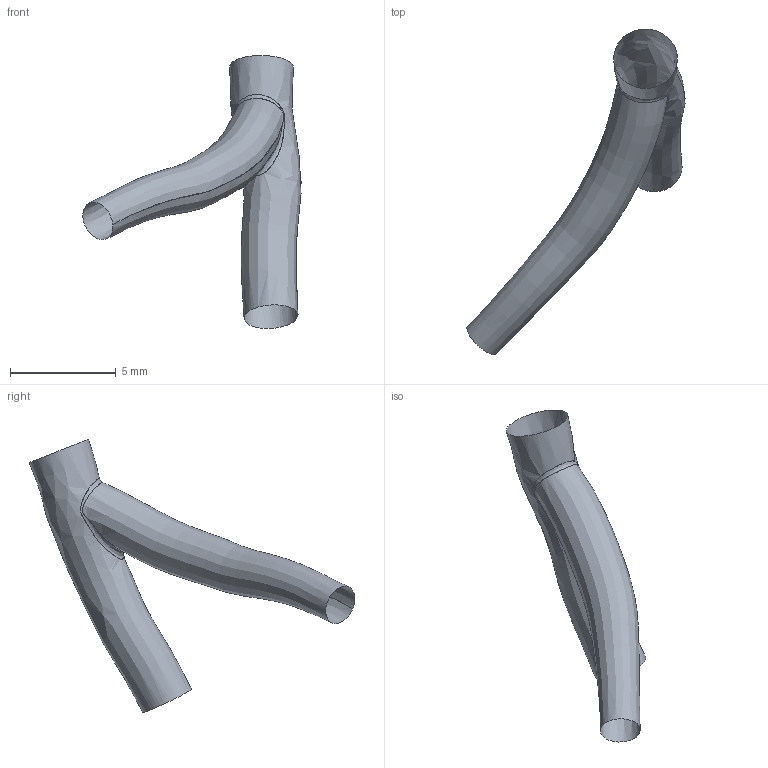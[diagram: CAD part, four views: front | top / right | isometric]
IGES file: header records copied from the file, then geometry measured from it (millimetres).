
Global section: file name: C:\Documents and Settings\Administrator\Desktop\FDA-Pig\Domestic LCA\Pig_000011\lcx.es.igs; native system: Rhinoceros ( May 19 2006 ); preprocessor: Trout Lake IGES 012 May 19 2006; date: 111205.184000; units: centimetre
Bounding box: 10.34 x 15.43 x 12.93 mm (x, y, z)
Surface area: 207.8 mm2 (no closed solid volume)
Topology: 0 solids, 0 shells, 3 faces, 62 edges, 59 vertices
Faces by surface type: bspline 3
